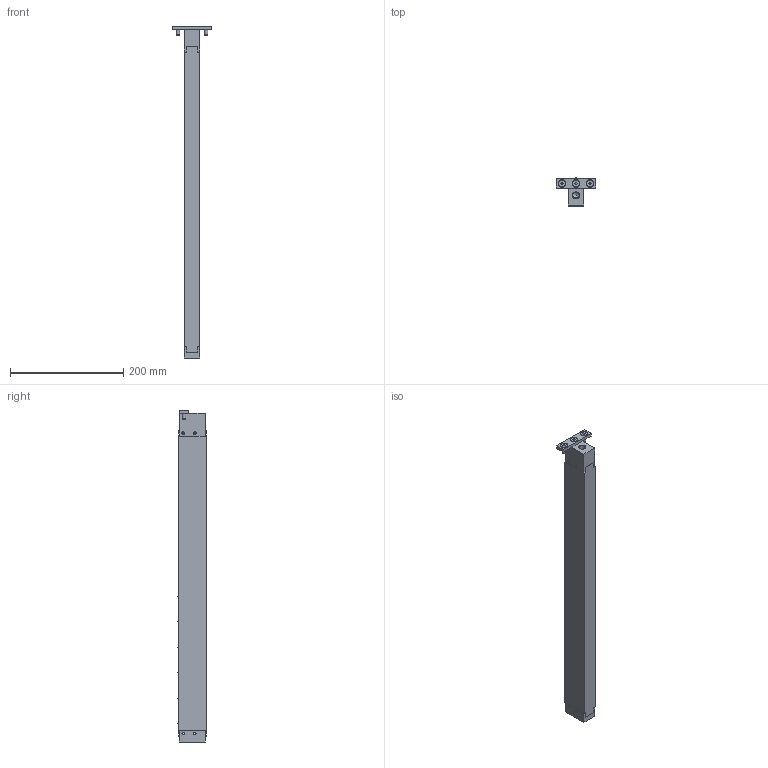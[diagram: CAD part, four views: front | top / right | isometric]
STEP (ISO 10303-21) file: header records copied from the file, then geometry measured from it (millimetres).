
FILE_DESCRIPTION(/* description */ ('DIE LIFTER'),/* implementation_level */ '2;1');
FILE_NAME(/* name */ 'S:\EASCN Vault\Designs\Standard Part\DIE LIFTERS\EHB\EHB- 3D step\EHB28 - 3D step complete serie\EHB28-12.stp',/* time_stamp */ '2019-11-26T13:42:21+08:00',/* author */ ('yue.yang'),/* organization */ (''),/* preprocessor_version */ 'ST-DEVELOPER v17',/* originating_system */ 'Autodesk Inventor 2019',/* authorisation */ '');
FILE_SCHEMA (('AUTOMOTIVE_DESIGN { 1 0 10303 214 3 1 1 }'));
Length unit declared in the file: millimetre
Products named in the file (2): EHB28-12; EHB28-12_Substitute_1
Assembly tree (1 placements, depth 2):
  EHB28-12
    EHB28-12_Substitute_1
Bounding box: 70 x 49.49 x 586 mm (x, y, z)
Volume: 659638.2 mm3; surface area: 168960.9 mm2
Topology: 15 solids, 15 shells, 443 faces, 1280 edges, 893 vertices
Faces by surface type: plane 193, cylinder 131, cone 67, torus 40, sphere 12
Full cylindrical faces by diameter (mm): 3 x2, 5 x6, 5.5 x1, 6 x16, 6.5 x3, 6.647 x2, 7.5 x1, 10 x3, 11.445 x1, 12 x3, 16 x12, 20 x12, 21.5 x12, 24.05 x12, 24.2 x12
Entity records: 17221 total; most frequent: CARTESIAN_POINT 4488, DIRECTION 2669, ORIENTED_EDGE 2528, EDGE_CURVE 1264, AXIS2_PLACEMENT_3D 1123, VERTEX_POINT 893, CIRCLE 677, EDGE_LOOP 555
